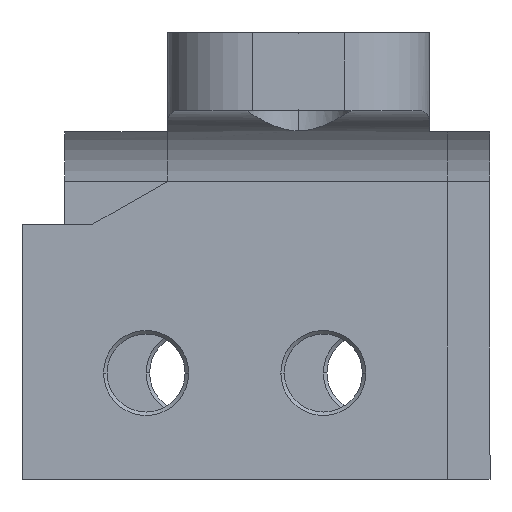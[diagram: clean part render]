
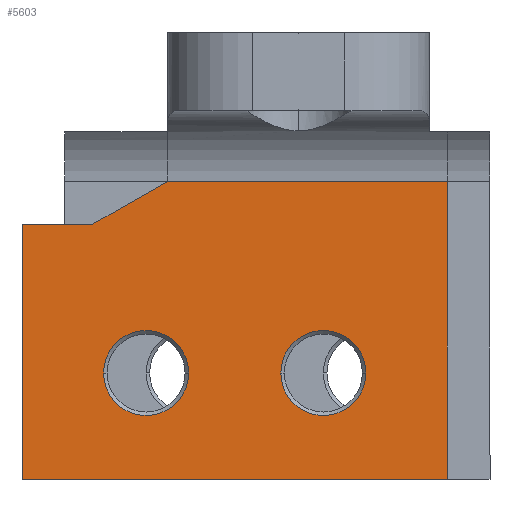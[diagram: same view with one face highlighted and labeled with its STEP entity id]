
A CAD part, left-side view. The second image highlights one B-rep face of the part: STEP entity #5603.
In plain terms, the highlighted planar face has unit normal (-1, 0, 0).
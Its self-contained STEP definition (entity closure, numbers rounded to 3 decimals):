
#271 = FACE_BOUND ( 'NONE', #824, .T. ) ;
#279 = VERTEX_POINT ( 'NONE', #4439 ) ;
#294 = DIRECTION ( 'NONE',  ( 0., -1., 0. ) ) ;
#333 = DIRECTION ( 'NONE',  ( 1., 0., 0. ) ) ;
#501 = LINE ( 'NONE', #5373, #5348 ) ;
#513 = EDGE_CURVE ( 'NONE', #3147, #3909, #632, .T. ) ;
#632 = LINE ( 'NONE', #2795, #6098 ) ;
#703 = DIRECTION ( 'NONE',  ( 0., -1., 0. ) ) ;
#705 = AXIS2_PLACEMENT_3D ( 'NONE', #3056, #1176, #4566 ) ;
#824 = EDGE_LOOP ( 'NONE', ( #4115, #1103 ) ) ;
#848 = CARTESIAN_POINT ( 'NONE',  ( -142.5, 79.75, -144.5 ) ) ;
#894 = LINE ( 'NONE', #4286, #6126 ) ;
#975 = VECTOR ( 'NONE', #4740, 1000. ) ;
#984 = VERTEX_POINT ( 'NONE', #4491 ) ;
#1103 = ORIENTED_EDGE ( 'NONE', *, *, #3817, .T. ) ;
#1176 = DIRECTION ( 'NONE',  ( 1., 0., 0. ) ) ;
#1178 = CARTESIAN_POINT ( 'NONE',  ( -142.5, 73.75, -144.5 ) ) ;
#1242 = CARTESIAN_POINT ( 'NONE',  ( -142.5, 54.75, -144.5 ) ) ;
#1257 = VERTEX_POINT ( 'NONE', #5403 ) ;
#1332 = EDGE_CURVE ( 'NONE', #4993, #1542, #5934, .T. ) ;
#1367 = ORIENTED_EDGE ( 'NONE', *, *, #4167, .T. ) ;
#1532 = DIRECTION ( 'NONE',  ( 1., 0., 0. ) ) ;
#1542 = VERTEX_POINT ( 'NONE', #1700 ) ;
#1700 = CARTESIAN_POINT ( 'NONE',  ( -142.5, 85.75, -144.5 ) ) ;
#1737 = CARTESIAN_POINT ( 'NONE',  ( -142.5, 76.75, -117.5 ) ) ;
#1775 = AXIS2_PLACEMENT_3D ( 'NONE', #848, #5658, #2775 ) ;
#1794 = VECTOR ( 'NONE', #4656, 1000. ) ;
#1941 = DIRECTION ( 'NONE',  ( 0., 0., -1. ) ) ;
#2112 = ORIENTED_EDGE ( 'NONE', *, *, #6275, .T. ) ;
#2251 = AXIS2_PLACEMENT_3D ( 'NONE', #4648, #333, #294 ) ;
#2256 = EDGE_LOOP ( 'NONE', ( #3223, #4091, #2261, #1367, #5509, #2112 ) ) ;
#2261 = ORIENTED_EDGE ( 'NONE', *, *, #5069, .T. ) ;
#2325 = CARTESIAN_POINT ( 'NONE',  ( -142.5, 97.25, -159.5 ) ) ;
#2366 = VERTEX_POINT ( 'NONE', #3044 ) ;
#2417 = VECTOR ( 'NONE', #5216, 1000. ) ;
#2445 = VERTEX_POINT ( 'NONE', #4148 ) ;
#2568 = EDGE_LOOP ( 'NONE', ( #4076, #3453 ) ) ;
#2648 = CIRCLE ( 'NONE', #1775, 6. ) ;
#2729 = DIRECTION ( 'NONE',  ( 0., 1., 0. ) ) ;
#2775 = DIRECTION ( 'NONE',  ( 0., -1., 0. ) ) ;
#2795 = CARTESIAN_POINT ( 'NONE',  ( -142.5, 57., -117.5 ) ) ;
#2819 = CARTESIAN_POINT ( 'NONE',  ( -142.5, 37.25, -159.5 ) ) ;
#2851 = LINE ( 'NONE', #3708, #1794 ) ;
#2927 = CARTESIAN_POINT ( 'NONE',  ( -142.5, 79.75, -144.5 ) ) ;
#3029 = EDGE_CURVE ( 'NONE', #984, #279, #5077, .T. ) ;
#3044 = CARTESIAN_POINT ( 'NONE',  ( -142.5, 97.25, -123.5 ) ) ;
#3056 = CARTESIAN_POINT ( 'NONE',  ( -142.5, 54.75, -144.5 ) ) ;
#3115 = LINE ( 'NONE', #2819, #2417 ) ;
#3147 = VERTEX_POINT ( 'NONE', #5728 ) ;
#3223 = ORIENTED_EDGE ( 'NONE', *, *, #6265, .T. ) ;
#3266 = DIRECTION ( 'NONE',  ( 0., 1., 0. ) ) ;
#3453 = ORIENTED_EDGE ( 'NONE', *, *, #1332, .T. ) ;
#3708 = CARTESIAN_POINT ( 'NONE',  ( -142.5, 76.75, -117.5 ) ) ;
#3817 = EDGE_CURVE ( 'NONE', #279, #984, #5225, .T. ) ;
#3909 = VERTEX_POINT ( 'NONE', #1737 ) ;
#4076 = ORIENTED_EDGE ( 'NONE', *, *, #6287, .T. ) ;
#4091 = ORIENTED_EDGE ( 'NONE', *, *, #513, .T. ) ;
#4100 = DIRECTION ( 'NONE',  ( 1., 0., 0. ) ) ;
#4115 = ORIENTED_EDGE ( 'NONE', *, *, #3029, .T. ) ;
#4122 = FACE_OUTER_BOUND ( 'NONE', #2256, .T. ) ;
#4132 = PLANE ( 'NONE',  #2251 ) ;
#4148 = CARTESIAN_POINT ( 'NONE',  ( -142.5, 37.25, -159.5 ) ) ;
#4167 = EDGE_CURVE ( 'NONE', #1257, #2366, #894, .T. ) ;
#4286 = CARTESIAN_POINT ( 'NONE',  ( -142.5, 87.25, -123.5 ) ) ;
#4439 = CARTESIAN_POINT ( 'NONE',  ( -142.5, 48.75, -144.5 ) ) ;
#4491 = CARTESIAN_POINT ( 'NONE',  ( -142.5, 60.75, -144.5 ) ) ;
#4545 = AXIS2_PLACEMENT_3D ( 'NONE', #1242, #4100, #703 ) ;
#4566 = DIRECTION ( 'NONE',  ( 0., -1., 0. ) ) ;
#4648 = CARTESIAN_POINT ( 'NONE',  ( -142.5, 57., -96.5 ) ) ;
#4649 = VERTEX_POINT ( 'NONE', #6270 ) ;
#4656 = DIRECTION ( 'NONE',  ( 0., 0.868, -0.496 ) ) ;
#4740 = DIRECTION ( 'NONE',  ( 0., -1., 0. ) ) ;
#4935 = DIRECTION ( 'NONE',  ( 0., -1., 0. ) ) ;
#4993 = VERTEX_POINT ( 'NONE', #1178 ) ;
#5069 = EDGE_CURVE ( 'NONE', #3909, #1257, #2851, .T. ) ;
#5077 = CIRCLE ( 'NONE', #4545, 6. ) ;
#5216 = DIRECTION ( 'NONE',  ( 0., 0., 1. ) ) ;
#5225 = CIRCLE ( 'NONE', #705, 6. ) ;
#5348 = VECTOR ( 'NONE', #1941, 1000. ) ;
#5367 = EDGE_CURVE ( 'NONE', #2366, #4649, #501, .T. ) ;
#5373 = CARTESIAN_POINT ( 'NONE',  ( -142.5, 97.25, -123.5 ) ) ;
#5403 = CARTESIAN_POINT ( 'NONE',  ( -142.5, 87.25, -123.5 ) ) ;
#5509 = ORIENTED_EDGE ( 'NONE', *, *, #5367, .T. ) ;
#5603 = ADVANCED_FACE ( 'NONE', ( #5959, #271, #4122 ), #4132, .F. ) ;
#5658 = DIRECTION ( 'NONE',  ( 1., 0., 0. ) ) ;
#5686 = LINE ( 'NONE', #2325, #975 ) ;
#5728 = CARTESIAN_POINT ( 'NONE',  ( -142.5, 37.25, -117.5 ) ) ;
#5933 = AXIS2_PLACEMENT_3D ( 'NONE', #2927, #1532, #4935 ) ;
#5934 = CIRCLE ( 'NONE', #5933, 6. ) ;
#5959 = FACE_BOUND ( 'NONE', #2568, .T. ) ;
#6098 = VECTOR ( 'NONE', #2729, 1000. ) ;
#6126 = VECTOR ( 'NONE', #3266, 1000. ) ;
#6265 = EDGE_CURVE ( 'NONE', #2445, #3147, #3115, .T. ) ;
#6270 = CARTESIAN_POINT ( 'NONE',  ( -142.5, 97.25, -159.5 ) ) ;
#6275 = EDGE_CURVE ( 'NONE', #4649, #2445, #5686, .T. ) ;
#6287 = EDGE_CURVE ( 'NONE', #1542, #4993, #2648, .T. ) ;
